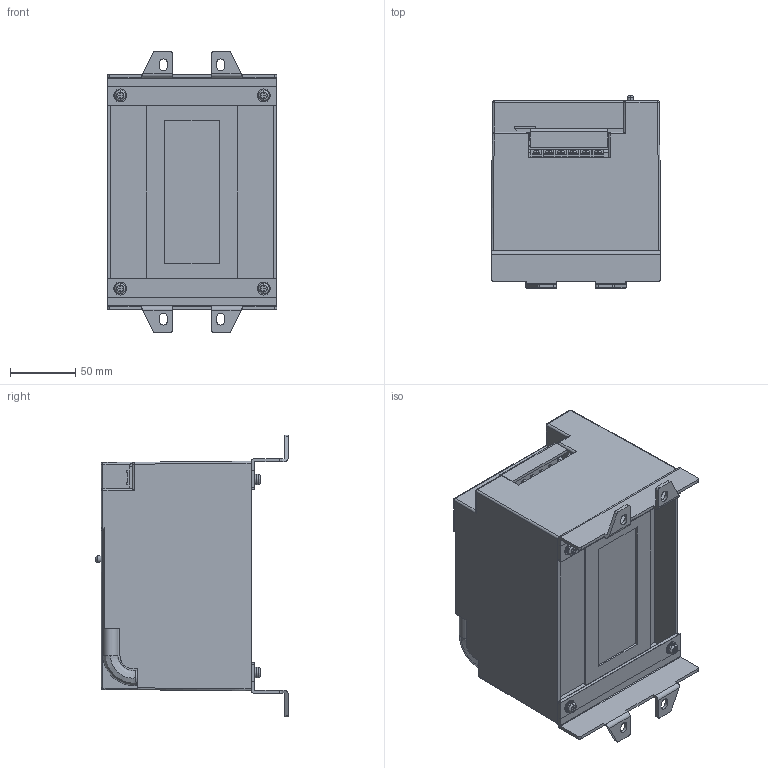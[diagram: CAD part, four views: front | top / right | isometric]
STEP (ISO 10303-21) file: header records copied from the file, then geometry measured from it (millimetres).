
FILE_DESCRIPTION (( 'STEP AP203' ), '1' );
FILE_NAME ('LCD2-400（630）TGM3E 电操装配.STEP', '2026-06-12T01:31:09', ( 'Windows 用户' ), ( 'Microsoft' ), 'SwSTEP 2.0', 'SolidWorks 2022', '' );
FILE_SCHEMA (( 'CONFIG_CONTROL_DESIGN' ));
Length unit declared in the file: millimetre
Products named in the file (5): LCD2-400（630）TGM3E电操前脚; LCD2-400（630）TGM3E电操; LCD2-400（630）TGM3E电操后脚; LCD2-400 630 STM6 萇紱芵隴滅誘欶; LCD2-400（630）TGM3E 电操装配
Assembly tree (4 placements, depth 2):
  LCD2-400（630）TGM3E 电操装配
    LCD2-400（630）TGM3E电操
    LCD2-400 630 STM6 萇紱芵隴滅誘欶
    LCD2-400（630）TGM3E电操后脚
    LCD2-400（630）TGM3E电操前脚
Bounding box: 130 x 147.5 x 216 mm (x, y, z)
Volume: 2054744.4 mm3; surface area: 200797.5 mm2
Topology: 13 solids, 13 shells, 668 faces, 1707 edges, 1105 vertices
Faces by surface type: plane 451, cylinder 171, bspline 37, cone 9
Entity records: 21950 total; most frequent: CARTESIAN_POINT 5452, ORIENTED_EDGE 3398, DIRECTION 3179, EDGE_CURVE 1699, LINE 1159, VECTOR 1159, VERTEX_POINT 1105, AXIS2_PLACEMENT_3D 1010
